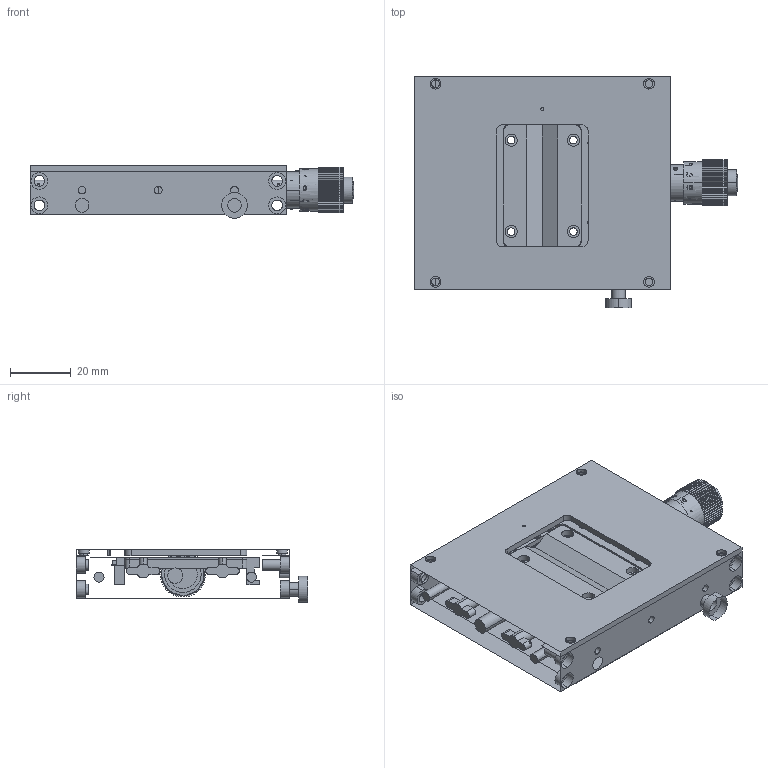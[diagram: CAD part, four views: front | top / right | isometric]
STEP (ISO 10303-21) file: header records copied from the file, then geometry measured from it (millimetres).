
FILE_DESCRIPTION (( 'STEP AP214' ), '1' );
FILE_NAME ('PF05-12.STEP', '2022-08-28T08:21:05', ( '' ), ( '' ), 'SwSTEP 2.0', 'SolidWorks 2017', '' );
FILE_SCHEMA (( 'AUTOMOTIVE_DESIGN' ));
Length unit declared in the file: millimetre
Products named in the file (1): PF05-12
Bounding box: 106.12 x 76 x 17.25 mm (x, y, z)
Surface area: 24417.3 mm2 (no closed solid volume)
Topology: 0 solids, 18 shells, 444 faces, 1484 edges, 1099 vertices
Faces by surface type: plane 236, cylinder 186, bspline 16, cone 6
Entity records: 21745 total; most frequent: CARTESIAN_POINT 7415, ORIENTED_EDGE 2574, DIRECTION 2080, EDGE_CURVE 1488, VERTEX_POINT 1099, AXIS2_PLACEMENT_3D 696, VECTOR 688, LINE 688
